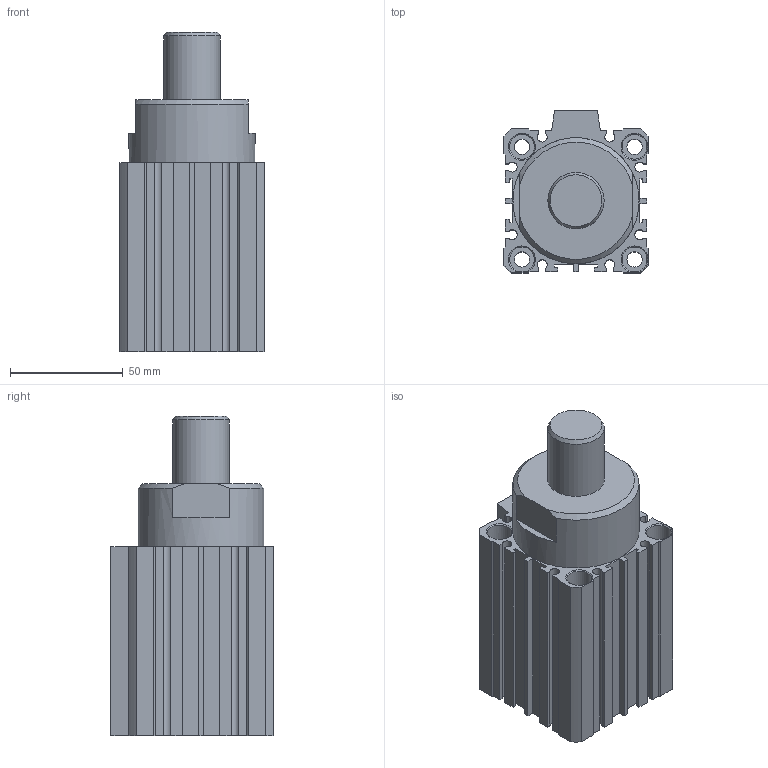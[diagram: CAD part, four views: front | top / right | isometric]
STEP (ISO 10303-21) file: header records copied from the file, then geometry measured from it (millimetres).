
FILE_DESCRIPTION((''),'2;1');
FILE_NAME('I:\3D電子目錄\氣缸\STB\STB\STB50\STB50x30.stp','2007-09-19T14:01:45',('Administrator'),(''),'Autodesk Inventor 11','Autodesk Inventor 11','');
FILE_SCHEMA(('AUTOMOTIVE_DESIGN { 1 0 10303 214 1 1 1 1 }'));
Length unit declared in the file: millimetre
Products named in the file (1): STB50
Bounding box: 64 x 72 x 142 mm (x, y, z)
Volume: 378851.3 mm3; surface area: 58948.3 mm2
Topology: 1 solids, 1 shells, 163 faces, 425 edges, 276 vertices
Faces by surface type: plane 110, cylinder 32, cone 17, bspline 3, torus 1
Full cylindrical faces by diameter (mm): 2.7 x2, 6.8 x4, 11 x8, 25 x1, 37 x1, 52 x2, 55 x1, 56 x1
Entity records: 4773 total; most frequent: CARTESIAN_POINT 891, DIRECTION 786, ORIENTED_EDGE 754, EDGE_CURVE 377, VECTOR 280, LINE 280, VERTEX_POINT 266, AXIS2_PLACEMENT_3D 253
